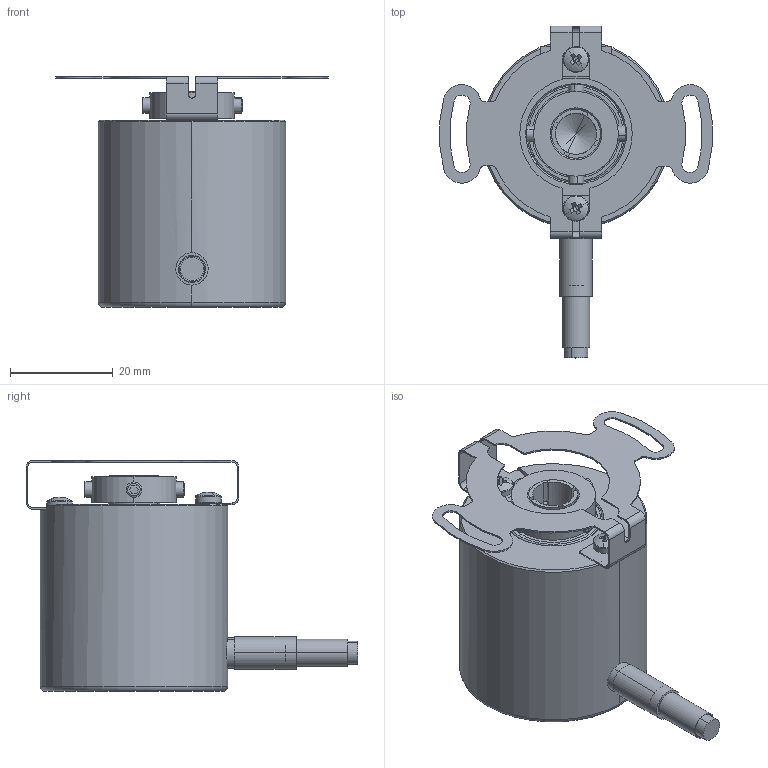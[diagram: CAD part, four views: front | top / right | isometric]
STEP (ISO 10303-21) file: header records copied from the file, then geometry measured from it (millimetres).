
FILE_DESCRIPTION (( 'STEP AP203' ), '1' );
FILE_NAME ('E36HM-SSI-222##.STEP', '2023-10-31T10:52:01', ( '' ), ( '' ), 'SwSTEP 2.0', 'SolidWorks 2021', '' );
FILE_SCHEMA (( 'CONFIG_CONTROL_DESIGN' ));
Length unit declared in the file: millimetre
Products named in the file (1): E36HM-SSI-222##
Bounding box: 53.1 x 64.6 x 44.97 mm (x, y, z)
Volume: 39437.8 mm3; surface area: 11709.6 mm2
Topology: 10 solids, 10 shells, 359 faces, 889 edges, 545 vertices
Faces by surface type: plane 161, cylinder 123, cone 57, torus 10, bspline 4, sphere 4
Entity records: 11347 total; most frequent: CARTESIAN_POINT 2666, DIRECTION 1886, ORIENTED_EDGE 1750, EDGE_CURVE 875, AXIS2_PLACEMENT_3D 721, VERTEX_POINT 545, LINE 444, VECTOR 444
